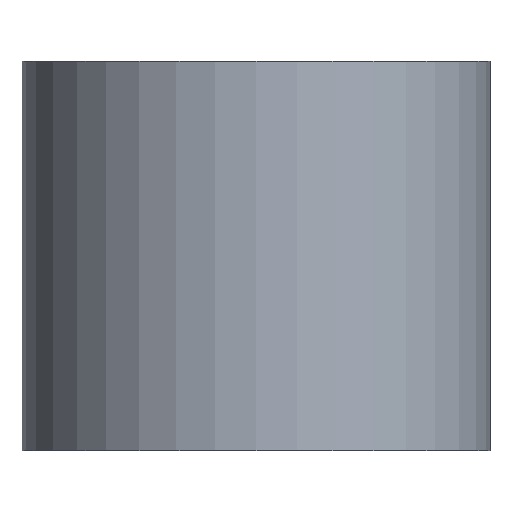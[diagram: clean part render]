
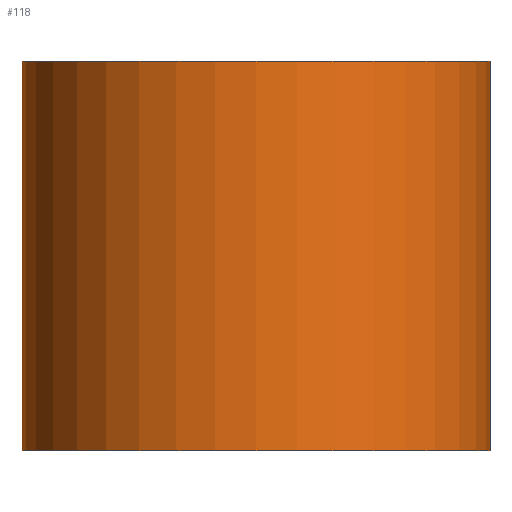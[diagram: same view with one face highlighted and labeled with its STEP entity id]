
A CAD part, front view. The second image highlights one B-rep face of the part: STEP entity #118.
In plain terms, the highlighted cylindrical face has radius 60 mm (diameter 120 mm), a partial arc.
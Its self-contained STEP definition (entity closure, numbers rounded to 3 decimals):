
#100=CYLINDRICAL_SURFACE('',#199,60.);
#104=FACE_OUTER_BOUND('',#132,.T.);
#107=LINE('',#257,#111);
#108=LINE('',#258,#112);
#111=VECTOR('',#228,1.);
#112=VECTOR('',#229,1.);
#118=ADVANCED_FACE('',(#104),#100,.T.);
#132=EDGE_LOOP('',(#153,#154,#155,#156));
#153=ORIENTED_EDGE('',*,*,#175,.F.);
#154=ORIENTED_EDGE('',*,*,#174,.T.);
#155=ORIENTED_EDGE('',*,*,#176,.T.);
#156=ORIENTED_EDGE('',*,*,#165,.F.);
#157=VERTEX_POINT('',#236);
#158=VERTEX_POINT('',#237);
#163=VERTEX_POINT('',#253);
#164=VERTEX_POINT('',#254);
#165=EDGE_CURVE('',#157,#158,#177,.T.);
#174=EDGE_CURVE('',#164,#163,#184,.T.);
#175=EDGE_CURVE('',#164,#157,#107,.T.);
#176=EDGE_CURVE('',#163,#158,#108,.T.);
#177=CIRCLE('',#186,60.);
#184=CIRCLE('',#196,60.);
#186=AXIS2_PLACEMENT_3D('',#235,#202,#203);
#196=AXIS2_PLACEMENT_3D('',#255,#224,#225);
#199=AXIS2_PLACEMENT_3D('',#260,#232,#233);
#202=DIRECTION('',(0.,0.,1.));
#203=DIRECTION('',(0.,1.,0.));
#224=DIRECTION('',(0.,0.,1.));
#225=DIRECTION('',(0.,1.,0.));
#228=DIRECTION('',(0.,0.,1.));
#229=DIRECTION('',(0.,0.,1.));
#232=DIRECTION('',(0.,0.,1.));
#233=DIRECTION('',(0.,-1.,0.));
#235=CARTESIAN_POINT('',(0.,0.,100.));
#236=CARTESIAN_POINT('',(-60.,0.,100.));
#237=CARTESIAN_POINT('',(60.,0.,100.));
#253=CARTESIAN_POINT('',(60.,0.,0.));
#254=CARTESIAN_POINT('',(-60.,0.,0.));
#255=CARTESIAN_POINT('',(0.,0.,0.));
#257=CARTESIAN_POINT('',(-60.,0.,100.));
#258=CARTESIAN_POINT('',(60.,0.,100.));
#260=CARTESIAN_POINT('',(0.,0.,0.));
